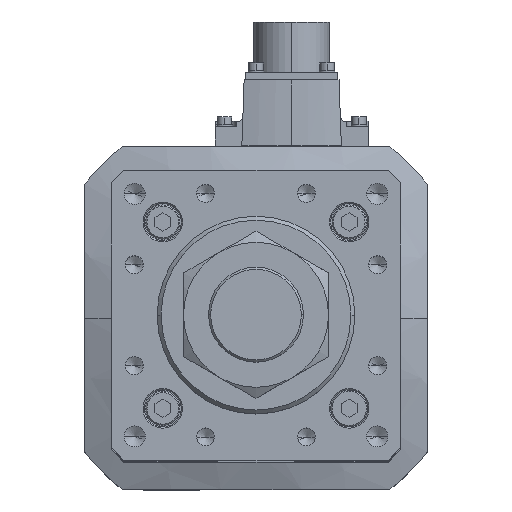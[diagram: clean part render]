
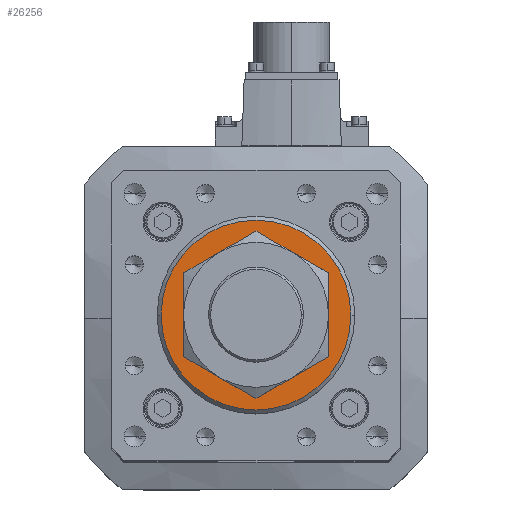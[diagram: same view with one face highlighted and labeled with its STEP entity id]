
A CAD part, top view. The second image highlights one B-rep face of the part: STEP entity #26256.
In plain terms, the highlighted planar face has unit normal (0, 0, 1).
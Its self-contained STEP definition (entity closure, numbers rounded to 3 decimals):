
#933 = DIRECTION ( 'NONE',  ( 0., 0., 1. ) ) ;
#1979 = FACE_BOUND ( 'NONE', #12588, .T. ) ;
#2112 = CARTESIAN_POINT ( 'NONE',  ( -36., 0., 396. ) ) ;
#2513 = DIRECTION ( 'NONE',  ( 0., 0., -1. ) ) ;
#2701 = AXIS2_PLACEMENT_3D ( 'NONE', #31597, #2513, #19495 ) ;
#3215 = AXIS2_PLACEMENT_3D ( 'NONE', #33265, #4406, #15641 ) ;
#4406 = DIRECTION ( 'NONE',  ( 0., 0., 1. ) ) ;
#6593 = VERTEX_POINT ( 'NONE', #36261 ) ;
#6736 = CARTESIAN_POINT ( 'NONE',  ( 36., 0., 396. ) ) ;
#7802 = DIRECTION ( 'NONE',  ( 0., 0., 1. ) ) ;
#8125 = VERTEX_POINT ( 'NONE', #6736 ) ;
#11277 = AXIS2_PLACEMENT_3D ( 'NONE', #13793, #16599, #31652 ) ;
#12588 = EDGE_LOOP ( 'NONE', ( #21071, #30028 ) ) ;
#12972 = AXIS2_PLACEMENT_3D ( 'NONE', #24045, #933, #35728 ) ;
#13577 = DIRECTION ( 'NONE',  ( 1., 0., 0. ) ) ;
#13793 = CARTESIAN_POINT ( 'NONE',  ( 0., 0., 396. ) ) ;
#15349 = ORIENTED_EDGE ( 'NONE', *, *, #30174, .T. ) ;
#15641 = DIRECTION ( 'NONE',  ( 1., 0., 0. ) ) ;
#16599 = DIRECTION ( 'NONE',  ( 0., 0., -1. ) ) ;
#16732 = CIRCLE ( 'NONE', #11277, 23. ) ;
#17019 = VERTEX_POINT ( 'NONE', #30031 ) ;
#17644 = EDGE_CURVE ( 'NONE', #17019, #6593, #19810, .T. ) ;
#17675 = CIRCLE ( 'NONE', #12972, 36. ) ;
#17966 = FACE_OUTER_BOUND ( 'NONE', #23651, .T. ) ;
#18420 = EDGE_CURVE ( 'NONE', #8125, #26426, #17675, .T. ) ;
#19495 = DIRECTION ( 'NONE',  ( 1., 0., 0. ) ) ;
#19810 = CIRCLE ( 'NONE', #2701, 23. ) ;
#21071 = ORIENTED_EDGE ( 'NONE', *, *, #35622, .T. ) ;
#21347 = ORIENTED_EDGE ( 'NONE', *, *, #18420, .T. ) ;
#23651 = EDGE_LOOP ( 'NONE', ( #15349, #21347 ) ) ;
#24045 = CARTESIAN_POINT ( 'NONE',  ( 0., 0., 396. ) ) ;
#26256 = ADVANCED_FACE ( 'NONE', ( #1979, #17966 ), #27516, .T. ) ;
#26426 = VERTEX_POINT ( 'NONE', #2112 ) ;
#27516 = PLANE ( 'NONE',  #3215 ) ;
#30028 = ORIENTED_EDGE ( 'NONE', *, *, #17644, .T. ) ;
#30031 = CARTESIAN_POINT ( 'NONE',  ( -23., 0., 396. ) ) ;
#30174 = EDGE_CURVE ( 'NONE', #26426, #8125, #33558, .T. ) ;
#31304 = CARTESIAN_POINT ( 'NONE',  ( 0., 0., 396. ) ) ;
#31597 = CARTESIAN_POINT ( 'NONE',  ( 0., 0., 396. ) ) ;
#31652 = DIRECTION ( 'NONE',  ( 1., 0., 0. ) ) ;
#33265 = CARTESIAN_POINT ( 'NONE',  ( 0., 0., 396. ) ) ;
#33558 = CIRCLE ( 'NONE', #37228, 36. ) ;
#35622 = EDGE_CURVE ( 'NONE', #6593, #17019, #16732, .T. ) ;
#35728 = DIRECTION ( 'NONE',  ( 1., 0., 0. ) ) ;
#36261 = CARTESIAN_POINT ( 'NONE',  ( 23., 0., 396. ) ) ;
#37228 = AXIS2_PLACEMENT_3D ( 'NONE', #31304, #7802, #13577 ) ;
